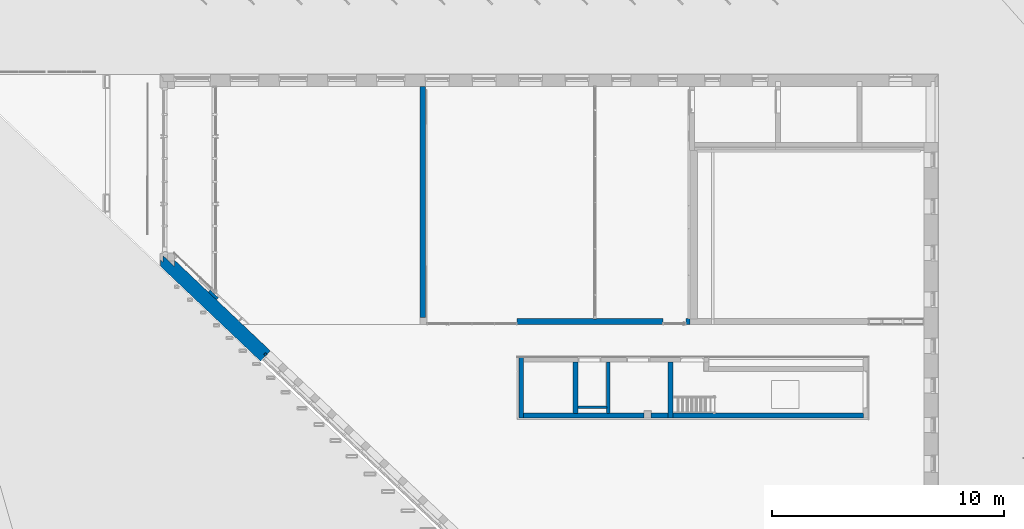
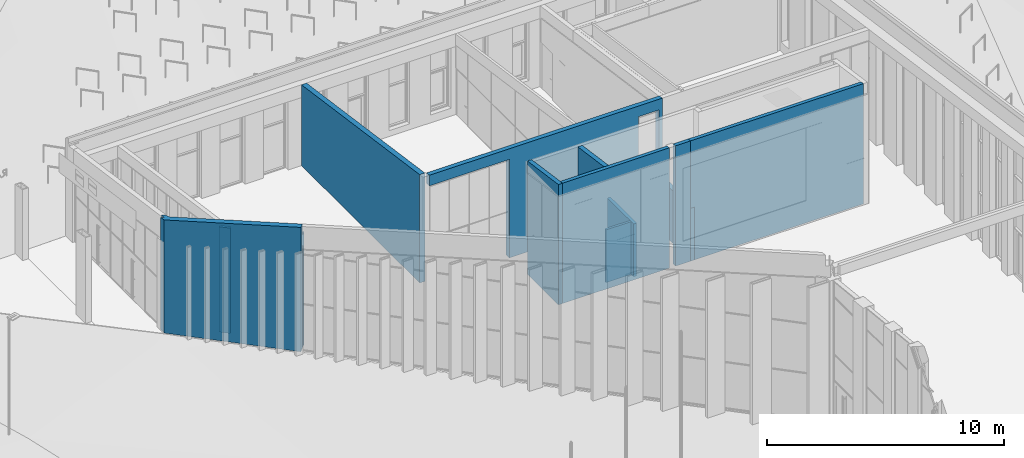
# One storey, part 125 of 246: 12 walls, 2 openings.
"""IFC2X3 building model written with IfcOpenShell, lengths in millimetres."""

from ifc_helpers import new_model, entity, si_unit, converted_unit, derived_unit, money_unit, direction, frame, origin_with_axes, place, context, subcontext, project, spatial, faceted_brep, material, material_list, type_object, element, save


model = new_model("IFC2X3")

# Units and contexts
model_context = context("Model", 3, precision=0.01, world=origin_with_axes(), true_north=direction((0.0, 1.0)))
body_context = subcontext(model_context, "Body", "Model", "MODEL_VIEW")
ifc_project = project(units=[si_unit("LENGTHUNIT", "METRE", prefix="MILLI"), si_unit("AREAUNIT", "SQUARE_METRE"), si_unit("VOLUMEUNIT", "CUBIC_METRE"), converted_unit("PLANEANGLEUNIT", "DEGREE", entity("IfcPlaneAngleMeasure", 0.0174532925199), si_unit("PLANEANGLEUNIT", "RADIAN"), dimensions=[0, 0, 0, 0, 0, 0, 0]), si_unit("SOLIDANGLEUNIT", "STERADIAN"), money_unit("EUR"), converted_unit("TIMEUNIT", "Year", entity("IfcTimeMeasure", 31556926.0), si_unit("TIMEUNIT", "SECOND"), dimensions=[0, 0, 1, 0, 0, 0, 0]), si_unit("MASSUNIT", "GRAM", prefix="KILO"), si_unit("THERMODYNAMICTEMPERATUREUNIT", "DEGREE_CELSIUS"), si_unit("LUMINOUSINTENSITYUNIT", "LUMEN"), si_unit("ENERGYUNIT", "JOULE", prefix="MEGA"), derived_unit("THERMALCONDUCTANCEUNIT", [(si_unit("POWERUNIT", "WATT"), 1), (si_unit("LENGTHUNIT", "METRE"), -1), (si_unit("THERMODYNAMICTEMPERATUREUNIT", "KELVIN"), -1)]), derived_unit("SPECIFICHEATCAPACITYUNIT", [(si_unit("ENERGYUNIT", "JOULE"), 1), (si_unit("MASSUNIT", "GRAM", prefix="KILO"), -1), (si_unit("THERMODYNAMICTEMPERATUREUNIT", "KELVIN"), -1)]), derived_unit("MASSDENSITYUNIT", [(si_unit("MASSUNIT", "GRAM", prefix="KILO"), 1), (si_unit("VOLUMEUNIT", "CUBIC_METRE"), -1)])], contexts=[model_context])

# Site, building, storey
site_placement = place(None, origin_with_axes())
site = spatial("IfcSite", under=ifc_project, at=site_placement, Name="L.Koidula tn 11b", CompositionType="ELEMENT")
building_placement = place(site_placement, origin_with_axes())
building = spatial("IfcBuilding", under=site, at=building_placement, Name="Rakvere Riigigümnaasium", CompositionType="ELEMENT")
storey_placement = place(building_placement, origin_with_axes())
storey = spatial("IfcBuildingStorey", under=building, at=storey_placement, Name="1.korrus 0,00", CompositionType="ELEMENT", Elevation=0.0)

# Walls
ifc_material_1 = material(Name="mineraalvill+karkass")
ifc_material_2 = material(Name="Kipsplaat")
ifc_material_list_1 = material_list([ifc_material_1, ifc_material_2, ifc_material_2])
wall_type_1 = type_object("IfcWallType", Name="SS-06 121", PredefinedType="NOTDEFINED")
wall_1_placement = place(storey_placement, frame((16541.7082725, 62407.0186259, 0.0), z_axis=(0.0, 0.0, 1.0), x_axis=(-0.725934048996, 0.68776431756, 0.0)))
element("IfcWall", 1, at=wall_1_placement, inside=storey, type_object=wall_type_1, material=ifc_material_list_1, Name="Sisesein", context=body_context, shape_type="Brep", body=[
    faceted_brep([(489.293847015, 0.0, 0.0), (489.293847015, -95.0, 0.0), (0.0, -95.0, 0.0), (0.0, 0.0, 0.0), (489.293847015, 0.0, 5417.22620419), (489.293847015, -95.0, 5417.22620419), (0.0, -95.0, 5417.22620419), (0.0, 0.0, 5417.22620419)], [[[0, 1, 2, 3]], [[0, 4, 5, 1]], [[1, 5, 6, 2]], [[3, 2, 6, 7]], [[4, 0, 3, 7]], [[5, 4, 7, 6]]]),
    faceted_brep([(489.293847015, -95.0, 0.0), (489.293847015, -108.0, 0.0), (0.0, -108.0, 0.0), (0.0, -95.0, 0.0), (489.293847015, -95.0, 5417.22620419), (489.293847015, -108.0, 5417.22620419), (0.0, -108.0, 5417.22620419), (0.0, -95.0, 5417.22620419)], [[[0, 1, 2, 3]], [[0, 4, 5, 1]], [[1, 5, 6, 2]], [[3, 2, 6, 7]], [[4, 0, 3, 7]], [[5, 4, 7, 6]]]),
    faceted_brep([(489.293847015, -108.0, 0.0), (489.293847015, -121.0, 0.0), (0.0, -121.0, 0.0), (0.0, -108.0, 0.0), (489.293847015, -108.0, 5417.22620419), (489.293847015, -121.0, 5417.22620419), (0.0, -121.0, 5417.22620419), (0.0, -108.0, 5417.22620419)], [[[0, 1, 2, 3]], [[0, 4, 5, 1]], [[1, 5, 6, 2]], [[3, 2, 6, 7]], [[4, 0, 3, 7]], [[5, 4, 7, 6]]]),
])
ifc_material_3 = material(Name="siseviimistlus-seinad")
ifc_material_4 = material(Name="Betoon element / plaat")
ifc_material_list_2 = material_list([ifc_material_3, ifc_material_4, ifc_material_3])
wall_type_2 = type_object("IfcWallType", Name="SS-01-2 220", PredefinedType="NOTDEFINED")
wall_2_placement = place(storey_placement, frame((31909.9947426, 59940.4546496, 0.0), z_axis=(0.0, 0.0, 1.0), x_axis=(0.0, -1.0, 0.0)))
element("IfcWall", 2, at=wall_2_placement, inside=storey, type_object=wall_type_2, material=ifc_material_list_2, Name="Sisesein", context=body_context, shape_type="Brep", body=[
    faceted_brep([(210.0, 200.0, 5846.03728122), (210.0, 210.0, 5846.03728117), (210.0, 210.0, 3020.0), (210.0, 200.0, 3020.0), (2410.0, 210.0, 6159.14364771), (2410.0, 200.0, 6159.14364777), (2410.0, 210.0, 3020.0), (2410.0, 200.0, 3020.0)], [[[0, 1, 2, 3]], [[4, 1, 0, 5]], [[1, 4, 6, 2]], [[7, 3, 2, 6]], [[5, 0, 3, 7]], [[4, 5, 7, 6]]]),
    faceted_brep([(210.0, 200.0, 0.0), (210.0, 200.0, 2715.0), (210.0, 210.0, 2715.0), (210.0, 210.0, 0.0), (2120.0, 200.0, 0.0), (2120.0, 200.0, 2715.0), (2120.0, 210.0, 2715.0), (2120.0, 210.0, 0.0)], [[[0, 1, 2, 3]], [[4, 5, 1, 0]], [[5, 6, 2, 1]], [[3, 2, 6, 7]], [[0, 3, 7, 4]], [[7, 6, 5, 4]]]),
    faceted_brep([(2211.5, 200.0, 2715.0), (2211.5, 210.0, 2715.0), (2211.5, 210.0, 0.0), (2211.5, 200.0, 0.0), (2410.0, 210.0, 2715.0), (2410.0, 200.0, 2715.0), (2410.0, 210.0, 0.0), (2410.0, 200.0, 0.0)], [[[0, 1, 2, 3]], [[4, 1, 0, 5]], [[1, 4, 6, 2]], [[7, 3, 2, 6]], [[5, 0, 3, 7]], [[4, 5, 7, 6]]]),
    faceted_brep([(200.0, 0.0, 5844.6140716), (200.0, 200.0, 5844.61407047), (200.0, 200.0, 0.0), (200.0, 0.0, 0.0), (2420.0, 200.0, 6160.56685853), (2420.0, 0.0, 6160.56685966), (2420.0, 200.0, 0.0), (2420.0, 0.0, 0.0)], [[[0, 1, 2, 3]], [[4, 1, 0, 5]], [[1, 4, 6, 2]], [[3, 2, 6, 7]], [[5, 0, 3, 7]], [[4, 5, 7, 6]]]),
    faceted_brep([(210.0, -10.0, 5846.03728241), (210.0, 0.0, 5846.03728235), (210.0, 0.0, 0.0), (210.0, -10.0, 0.0), (2410.0, 0.0, 6159.1436489), (2410.0, -10.0, 6159.14364896), (2410.0, 0.0, 0.0), (2410.0, -10.0, 0.0)], [[[0, 1, 2, 3]], [[4, 1, 0, 5]], [[1, 4, 6, 2]], [[6, 7, 3, 2]], [[5, 0, 3, 7]], [[4, 5, 7, 6]]]),
])
wall_3_placement = place(storey_placement, frame((35989.9999713, 59940.4546496, 0.0), z_axis=(0.0, 0.0, 1.0), x_axis=(0.0, -1.0, 0.0)))
element("IfcWall", 3, at=wall_3_placement, inside=storey, type_object=wall_type_2, material=ifc_material_list_2, Name="Sisesein", context=body_context, shape_type="Brep", body=[
    faceted_brep([(2419.99999553, 200.0, 2715.0), (2419.99999553, 210.0, 2715.0), (210.0, 210.0, 2715.0), (210.0, 200.0, 2715.0), (2420.0, 210.0, 0.0), (2420.0, 200.0, 0.0), (210.0, 210.0, 0.0), (210.0, 200.0, 0.0)], [[[0, 1, 2, 3]], [[4, 1, 0, 5]], [[1, 4, 6, 2]], [[2, 6, 7, 3]], [[5, 0, 3, 7]], [[4, 5, 7, 6]]]),
    faceted_brep([(2620.0, 200.0, 0.0), (2620.0, 0.0, 0.0), (200.0, 0.0, 0.0), (200.0, 200.0, 0.0), (2620.0, 200.0, 2715.0), (2620.0, 0.0, 2715.0), (200.0, 0.0, 2715.0), (200.0, 200.0, 2715.0)], [[[0, 1, 2, 3]], [[1, 0, 4, 5]], [[1, 5, 6, 2]], [[7, 3, 2, 6]], [[4, 0, 3, 7]], [[5, 4, 7, 6]]]),
    faceted_brep([(2420.0, -10.0, 0.0), (210.0, -10.0, 0.0), (210.0, 0.0, 0.0), (2420.0, 0.0, 0.0), (2420.0, -10.0, 2715.0), (210.0, -10.0, 2715.0), (210.0, 0.0, 2715.0), (2420.0, 0.0, 2715.0)], [[[0, 1, 2, 3]], [[4, 5, 1, 0]], [[2, 1, 5, 6]], [[3, 2, 6, 7]], [[3, 7, 4, 0]], [[7, 6, 5, 4]]]),
])
ifc_material_list_3 = material_list([ifc_material_3, ifc_material_4])
wall_type_3 = type_object("IfcWallType", Name="SS-01-1 210", PredefinedType="NOTDEFINED")
wall_4_placement = place(storey_placement, frame((29559.9900192, 57320.4546496, 0.0), z_axis=(0.0, 0.0, 1.0), x_axis=(1.0, 0.0, 0.0)))
element("IfcWall", 4, at=wall_4_placement, inside=storey, type_object=wall_type_3, material=ifc_material_list_3, Name="Sisesein", context=body_context, shape_type="Brep", body=[
    faceted_brep([(5700.00998084, 210.000018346, 6159.14362742), (6430.00995215, 210.000022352, 6159.14362273), (6430.00995215, 210.000022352, 2715.0), (6420.00995215, 210.000022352, 2715.0), (6420.00995215, 210.0, 0.0), (5700.00998084, 210.0, 0.0), (6430.00995215, 200.00000447, 6160.56683603), (5700.00998084, 200.00000367, 6160.56684027), (6430.00995215, 200.00000447, 2715.0), (6420.00995215, 200.00000447, 2715.0), (6420.00995215, 200.0, 0.0), (5700.00998084, 200.0, 0.0)], [[[0, 1, 2, 3, 4, 5]], [[6, 1, 0, 7]], [[1, 6, 8, 2]], [[8, 9, 3, 2]], [[9, 10, 4, 3]], [[10, 11, 5, 4]], [[7, 0, 5, 11]], [[6, 7, 11, 10, 9, 8]]]),
    faceted_brep([(2550.00472341, 210.000008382, 6159.14364658), (5400.00998084, 210.000017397, 6159.14362919), (5400.00998084, 210.0, 0.0), (3910.00472341, 210.0, 0.0), (3910.00472341, 210.000022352, 2715.0), (3790.00472341, 210.000022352, 2715.0), (3790.00472341, 210.0, 0.0), (2550.00472341, 210.0, 0.0), (5400.00998084, 200.00000348, 6160.56684193), (2550.00472341, 200.000001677, 6160.56685829), (5400.00998084, 200.0, 0.0), (3910.00472341, 200.0, 0.0), (3910.00472341, 200.00000447, 2715.0), (3790.00472341, 200.00000447, 2715.0), (3790.00472341, 200.0, 0.0), (2550.00472341, 200.0, 0.0)], [[[0, 1, 2, 3, 4, 5, 6, 7]], [[8, 1, 0, 9]], [[1, 8, 10, 2]], [[3, 2, 10, 11]], [[11, 12, 4, 3]], [[12, 13, 5, 4]], [[13, 14, 6, 5]], [[15, 7, 6, 14]], [[9, 0, 7, 15]], [[8, 9, 15, 14, 13, 12, 11, 10]]]),
    faceted_brep([(210.0, 210.000000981, 6159.14366085), (2350.00472341, 210.00000775, 6159.1436478), (2350.00472341, 210.0, 0.0), (210.0, 210.0, 0.0), (2350.00472341, 200.00000155, 6160.56685944), (210.0, 200.000000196, 6160.56687172), (2350.00472341, 200.0, 0.0), (210.0, 200.0, 0.0)], [[[0, 1, 2, 3]], [[4, 1, 0, 5]], [[1, 4, 6, 2]], [[2, 6, 7, 3]], [[5, 0, 3, 7]], [[4, 5, 7, 6]]]),
    faceted_brep([(5700.00998084, 200.00000367, 6160.56684027), (6430.00995215, 200.000004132, 6160.56683608), (6430.00995215, 200.0, 0.0), (5700.00998084, 200.0, 0.0), (6430.00995215, 0.0, 6189.0310518), (5700.00998084, 0.0, 6189.03105593), (6430.00995215, 0.0, 2715.0), (6430.00995215, 0.0, 0.0), (5700.00998084, 0.0, 0.0)], [[[0, 1, 2, 3]], [[4, 1, 0, 5]], [[1, 4, 6, 7, 2]], [[7, 8, 3, 2]], [[5, 0, 3, 8]], [[4, 5, 8, 7, 6]]]),
    faceted_brep([(200.0, 200.00000019, 6160.56687178), (5400.00998084, 200.00000348, 6160.56684193), (5400.00998084, 200.0, 0.0), (200.0, 200.0, 0.0), (5400.00998084, 0.0, 6189.03105757), (200.0, 0.0, 6189.03108695), (5400.00998084, 0.0, 0.0), (200.0, 0.0, 0.0)], [[[0, 1, 2, 3]], [[4, 1, 0, 5]], [[1, 4, 6, 2]], [[3, 2, 6, 7]], [[5, 0, 3, 7]], [[4, 5, 7, 6]]]),
])
wall_5_placement = place(storey_placement, frame((35989.9999713, 57320.4546496, 0.0), z_axis=(0.0, 0.0, 1.0), x_axis=(1.0, 0.0, 0.0)))
element("IfcWall", 5, at=wall_5_placement, inside=storey, type_object=wall_type_3, material=ifc_material_list_3, Name="Sisesein", context=body_context, shape_type="Brep", body=[
    faceted_brep([(0.0, 210.000022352, 6159.14362273), (8400.0000198, 210.000000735, 6159.14357834), (8400.0000198, 210.0, 0.0), (210.0, 210.0, 0.0), (210.0, 210.000022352, 2715.0), (0.0, 210.000022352, 2715.0), (8400.0000198, 200.000000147, 6160.56678918), (0.0, 200.00000447, 6160.56683603), (8400.0000198, 200.0, 0.0), (210.0, 200.0, 0.0), (210.0, 200.00000447, 2715.0), (0.0, 200.00000447, 2715.0)], [[[0, 1, 2, 3, 4, 5]], [[6, 1, 0, 7]], [[1, 6, 8, 2]], [[8, 9, 3, 2]], [[10, 4, 3, 9]], [[11, 5, 4, 10]], [[7, 0, 5, 11]], [[6, 7, 11, 10, 9, 8]]]),
    faceted_brep([(0.0, 200.00000447, 6160.56683603), (8410.0000198, 200.000000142, 6160.56678913), (8410.0000198, 200.0, 0.0), (200.0, 200.0, 0.0), (200.0, 200.00000447, 2715.0), (0.0, 200.00000447, 2715.0), (8410.0000198, 0.0, 6189.03100429), (0.0, 0.0, 6189.0310518), (8410.0000198, 0.0, 0.0), (200.0, 0.0, 0.0), (200.0, 0.0, 2715.0), (0.0, 0.0, 2715.0)], [[[0, 1, 2, 3, 4, 5]], [[6, 1, 0, 7]], [[1, 6, 8, 2]], [[8, 9, 3, 2]], [[10, 4, 3, 9]], [[11, 5, 4, 10]], [[7, 0, 5, 11]], [[6, 7, 11, 10, 9, 8]]]),
])
wall_6_placement = place(storey_placement, frame((29559.9900192, 59940.4546496, 0.0), z_axis=(0.0, 0.0, 1.0), x_axis=(0.0, -1.0, 0.0)))
element("IfcWall", 6, at=wall_6_placement, inside=storey, type_object=wall_type_3, material=ifc_material_list_3, Name="Sisesein", context=body_context, shape_type="Brep", body=[
    faceted_brep([(200.0, 200.0, 5844.61408375), (200.0, 210.0, 5844.61408369), (200.0, 210.0, 0.0), (200.0, 200.0, 0.0), (2420.0, 210.0, 6160.56687175), (2420.0, 200.0, 6160.56687181), (2420.0, 210.0, 0.0), (2420.0, 200.0, 0.0)], [[[0, 1, 2, 3]], [[4, 1, 0, 5]], [[1, 4, 6, 2]], [[6, 7, 3, 2]], [[5, 0, 3, 7]], [[4, 5, 7, 6]]]),
    faceted_brep([(0.0, 0.0, 5816.14986973), (0.0, 200.0, 5816.1498686), (0.0, 200.0, 0.0), (0.0, 0.0, 0.0), (2620.0, 200.0, 6189.03108695), (2620.0, 0.0, 6189.03108808), (2620.0, 200.0, 0.0), (2620.0, 0.0, 0.0)], [[[0, 1, 2, 3]], [[4, 1, 0, 5]], [[1, 4, 6, 2]], [[6, 7, 3, 2]], [[5, 0, 3, 7]], [[4, 5, 7, 6]]]),
])
ifc_material_5 = material(Name="Keraamiline plaat")
ifc_material_6 = material(Name="Silikaat plokk")
ifc_material_list_4 = material_list([ifc_material_5, ifc_material_6, ifc_material_5])
wall_type_4 = type_object("IfcWallType", Name="SS-05-1 150", PredefinedType="NOTDEFINED")
wall_7_placement = place(storey_placement, frame((33469.9947426, 59940.4546496, 0.0), z_axis=(0.0, 0.0, 1.0), x_axis=(0.0, -1.0, 0.0)))
element("IfcWall", 7, at=wall_7_placement, inside=storey, type_object=wall_type_4, material=ifc_material_list_4, Name="Sisesein", context=body_context, shape_type="Brep", body=[
    faceted_brep([(2410.0, 15.0, 2715.0), (210.0, 15.0, 2715.0), (210.0, 0.0, 2715.0), (2410.0, 0.0, 2715.0), (2410.0, 15.0, 0.0), (210.0, 15.0, 0.0), (210.0, 0.0, 0.0), (2410.0, 0.0, 0.0)], [[[0, 1, 2, 3]], [[4, 5, 1, 0]], [[2, 1, 5, 6]], [[3, 2, 6, 7]], [[3, 7, 4, 0]], [[7, 6, 5, 4]]]),
    faceted_brep([(2420.0, 0.0, 2715.0), (200.0, 0.0, 2715.0), (200.0, -120.0, 2715.0), (2420.0, -120.0, 2715.0), (2420.0, 0.0, 0.0), (200.0, 0.0, 0.0), (200.0, -120.0, 0.0), (2420.0, -120.0, 0.0)], [[[0, 1, 2, 3]], [[4, 5, 1, 0]], [[2, 1, 5, 6]], [[3, 2, 6, 7]], [[3, 7, 4, 0]], [[7, 6, 5, 4]]]),
    faceted_brep([(2410.0, -120.0, 2715.0), (2211.5, -120.0, 2715.0), (2211.5, -135.0, 2715.0), (2410.0, -135.0, 2715.0), (2410.0, -120.0, 0.0), (2211.5, -120.0, 0.0), (2211.5, -135.0, 0.0), (2410.0, -135.0, 0.0)], [[[0, 1, 2, 3]], [[4, 5, 1, 0]], [[2, 1, 5, 6]], [[3, 2, 6, 7]], [[3, 7, 4, 0]], [[7, 6, 5, 4]]]),
    faceted_brep([(2120.0, -120.0, 2715.0), (210.0, -120.0, 2715.0), (210.0, -135.0, 2715.0), (2120.0, -135.0, 2715.0), (2120.0, -120.0, 0.0), (210.0, -120.0, 0.0), (210.0, -135.0, 0.0), (2120.0, -135.0, 0.0)], [[[0, 1, 2, 3]], [[4, 5, 1, 0]], [[2, 1, 5, 6]], [[3, 2, 6, 7]], [[3, 7, 4, 0]], [[7, 6, 5, 4]]]),
])

# Wall, openings
ifc_material_7 = material(Name="Krohv")
ifc_material_8 = material(Name="Betoon")
ifc_material_list_5 = material_list([ifc_material_7, ifc_material_8])
wall_type_5 = type_object("IfcWallType", Name="SS-03-1 260", PredefinedType="NOTDEFINED")
wall_8_placement = place(storey_placement, frame((25299.9999003, 61340.4546496, 0.0), z_axis=(0.0, 0.0, 1.0), x_axis=(1.0, 0.0, 0.0)))
wall_8 = element("IfcWall", 8, at=wall_8_placement, inside=storey, type_object=wall_type_5, material=ifc_material_list_5, Name="Sisesein", context=body_context, shape_type="Brep", body=[
    faceted_brep([(7605.77136943, 260.0, 5579.89686516), (11609.9972454, 260.0, 5579.89684254), (11635.1426589, 260.0, 5579.8968424), (11635.1426589, 260.0, 0.0), (11465.0252022, 260.0, 0.0), (11465.0252022, 260.0, 5070.0), (10465.0252022, 260.0, 5070.0), (10465.0252022, 260.0, 0.0), (7605.77136943, 260.0, 0.0), (7604.10664399, 250.0, 5581.32007593), (11609.9972454, 250.0, 5581.3200533), (11635.1426589, 250.0, 5581.32005315), (11635.1426589, 250.0, 0.0), (11465.0252022, 250.0, 0.0), (11465.0252022, 250.0, 5070.0), (10465.0252022, 250.0, 5070.0), (10465.0252022, 250.0, 0.0), (7604.10664399, 250.0, 0.0)], [[[0, 1, 2, 3, 4, 5, 6, 7, 8]], [[1, 0, 9, 10, 11, 2]], [[3, 2, 11, 12]], [[4, 3, 12, 13]], [[4, 13, 14, 5]], [[5, 14, 15, 6]], [[6, 15, 16, 7]], [[16, 17, 8, 7]], [[9, 0, 8, 17]], [[10, 9, 17, 16, 15, 14, 13, 12, 11]]]),
    faceted_brep([(300.0, 260.0, 5579.89690644), (7486.65435094, 260.0, 5579.89686584), (7486.65435094, 260.0, 0.0), (4189.99007651, 260.0, 0.0), (4189.99007651, 260.0, 5070.0), (300.0, 260.0, 5070.0), (7484.98962551, 250.0, 5581.3200766), (300.0, 250.0, 5581.3201172), (7484.98962551, 250.0, 0.0), (4189.99007651, 250.0, 0.0), (4189.99007651, 250.0, 5070.0), (300.0, 250.0, 5070.0)], [[[0, 1, 2, 3, 4, 5]], [[6, 1, 0, 7]], [[1, 6, 8, 2]], [[2, 8, 9, 3]], [[9, 10, 4, 3]], [[10, 11, 5, 4]], [[7, 0, 5, 11]], [[6, 7, 11, 10, 9, 8]]]),
    faceted_brep([(300.0, 250.0, 5581.3201172), (11609.9972454, 250.0, 5581.3200533), (11635.1426589, 250.0, 5581.32005315), (11635.1426589, 250.0, 0.0), (11465.0252022, 250.0, 0.0), (11465.0252022, 250.0, 5070.0), (10465.0252022, 250.0, 5070.0), (10465.0252022, 250.0, 0.0), (4189.99007651, 250.0, 0.0), (4189.99007651, 250.0, 5070.0), (300.0, 250.0, 5070.0), (300.0, 249.987891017, 5581.32184056), (300.0, 0.0, 5616.90038613), (11635.1426589, 0.0, 5616.90032214), (11635.1426589, 0.0, 0.0), (11465.0252022, 0.0, 0.0), (11465.0252022, 0.0, 5070.0), (10465.0252022, 0.0, 5070.0), (10465.0252022, 0.0, 0.0), (4189.99007651, 0.0, 0.0), (4189.99007651, 0.0, 5070.0), (300.0, 0.0, 5070.0)], [[[0, 1, 2, 3, 4, 5, 6, 7, 8, 9, 10]], [[11, 12, 13, 2, 1, 0]], [[3, 2, 13, 14]], [[4, 3, 14, 15]], [[4, 15, 16, 5]], [[5, 16, 17, 6]], [[6, 17, 18, 7]], [[19, 8, 7, 18]], [[9, 8, 19, 20]], [[10, 9, 20, 21]], [[11, 0, 10, 21, 12]], [[15, 14, 13, 12, 21, 20, 19, 18, 17, 16]]]),
])
opening_1_placement = place(wall_8_placement, frame((10965.0252022, 0.0, 0.0), z_axis=(0.0, 0.0, 1.0), x_axis=(1.0, 0.0, 0.0)))
element("IfcOpeningElement", 9, at=opening_1_placement, cuts=wall_8, Name="ava", context=body_context, shape_type="Brep", body=[
    faceted_brep([(500.0, -260.0, 5070.0), (500.0, -260.0, 0.0), (500.0, 0.0, 0.0), (500.0, 0.0, 5070.0), (-500.0, -260.0, 5070.0), (-500.0, -260.0, 0.0), (-500.0, 0.0, 0.0), (-500.0, 0.0, 5070.0)], [[[0, 1, 2, 3]], [[0, 4, 5, 1]], [[1, 5, 6, 2]], [[3, 2, 6, 7]], [[4, 0, 3, 7]], [[5, 4, 7, 6]]]),
    faceted_brep([(500.0, 260.0, 0.0), (500.0, 260.0, 5070.0), (500.0, 0.0, 5070.0), (500.0, 0.0, 0.0), (-500.0, 260.0, 0.0), (-500.0, 260.0, 5070.0), (-500.0, 0.0, 5070.0), (-500.0, 0.0, 0.0)], [[[0, 1, 2, 3]], [[0, 4, 5, 1]], [[1, 5, 6, 2]], [[3, 2, 6, 7]], [[4, 0, 3, 7]], [[5, 4, 7, 6]]]),
])
opening_2_placement = place(wall_8_placement, frame((2244.99503825, 0.0, 0.0), z_axis=(0.0, 0.0, 1.0), x_axis=(1.0, 0.0, 0.0)))
element("IfcOpeningElement", 10, at=opening_2_placement, cuts=wall_8, Name="ava", context=body_context, shape_type="Brep", body=[
    faceted_brep([(-1944.99503825, -520.0, 0.0), (-1944.99503825, -520.0, 5070.0), (-1944.99503825, 260.0, 5070.0), (-1944.99503825, 260.0, 0.0), (1944.99503825, -520.0, 0.0), (1944.99503825, -520.0, 5070.0), (1944.99503825, 260.0, 5070.0), (1944.99503825, 260.0, 0.0)], [[[0, 1, 2, 3]], [[0, 4, 5, 1]], [[1, 5, 6, 2]], [[3, 2, 6, 7]], [[4, 0, 3, 7]], [[5, 4, 7, 6]]]),
])

# Walls
ifc_material_9 = material(Name="Betoon-element")
ifc_material_10 = material(Name="FF-PIR soojustus")
ifc_material_11 = material(Name="Tuuletõke (RKL Facade)")
ifc_material_12 = material(Name="Salto-roovitus")
ifc_material_13 = material(Name="Puit-fassaad")
ifc_material_list_6 = material_list([ifc_material_9, ifc_material_10, ifc_material_10, ifc_material_11, ifc_material_12, ifc_material_12, ifc_material_13])
wall_type_6 = type_object("IfcWallType", Name="VS-01-2 614", PredefinedType="NOTDEFINED")
wall_9_placement = place(storey_placement, frame((14730.0344055, 64123.4343836, 0.0), z_axis=(0.0, 0.0, 1.0), x_axis=(0.725934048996, -0.68776431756, 0.0)))
element("IfcWall", 11, at=wall_9_placement, inside=storey, type_object=wall_type_6, material=ifc_material_list_6, Name="Välissein", context=body_context, shape_type="Brep", body=[
    faceted_brep([(5689.20717306, 0.0, 0.0), (0.0, 0.0, 0.0), (1.50308210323e-07, 1.42406975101e-07, 5220.82377814), (5689.20717306, 0.0, 5777.70245445), (189.483967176, -200.0, 0.0), (5689.20717306, -200.0, 0.0), (189.483967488, -200.000000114, 5260.03424803), (5689.20717306, -200.0, 5798.36559817)], [[[0, 1, 2, 3]], [[4, 1, 0, 5]], [[1, 4, 6, 2]], [[2, 6, 7, 3]], [[5, 0, 3, 7]], [[4, 5, 7, 6]]]),
    faceted_brep([(5689.2062214, -299.999999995, 0.0), (5689.2062214, -299.999999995, 5239.65571022), (5689.20717306, -200.0, 5239.65571022), (5689.20717306, -200.0, 5798.36559817), (5689.20717306, -312.311480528, 5809.9691395), (5689.20717307, -312.311479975, 6367.39395961), (5689.20717306, -400.0, 6376.45356207), (5689.20717306, -400.0, 0.0), (5589.20622141, -299.999048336, 0.0), (5589.20622141, -299.999048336, 5239.65571022), (5589.20717307, -199.999048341, 5239.65571022), (5589.20717307, -199.999048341, 0.0), (-471.733123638, -200.0, 0.0), (-471.73312352, -200.000000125, 5752.73692201), (-223.776724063, -199.999999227, 5777.0077258), (-223.776725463, -200.0, 5219.58290557), (-116.512394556, -313.21731594, 5241.77942633), (-116.51239296, -313.217315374, 5799.2042466), (-282.249156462, -400.0, 5791.94739184), (-282.249156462, -400.0, 0.0)], [[[0, 1, 2, 3, 4, 5, 6, 7]], [[1, 0, 8, 9]], [[10, 2, 1, 9]], [[10, 11, 12, 13, 14, 15, 3, 2]], [[15, 16, 4, 3]], [[16, 17, 5, 4]], [[18, 6, 5, 17, 14, 13]], [[7, 6, 18, 19]], [[8, 0, 7, 19, 12, 11]], [[11, 10, 9, 8]], [[19, 18, 13, 12]], [[15, 14, 17, 16]]]),
    faceted_brep([(-439.28821553, -400.0, 0.0), (-439.28821553, -400.0, 5776.57588212), (5689.20717306, -400.0, 6376.45356207), (5689.20717306, -400.0, 0.0), (-363.49462866, -480.0, 0.0), (-363.494626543, -480.000002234, 5792.2600705), (5689.20717306, -480.0, 6384.71881956), (5689.20717306, -480.0, 0.0)], [[[0, 1, 2, 3]], [[4, 5, 1, 0]], [[5, 6, 2, 1]], [[3, 2, 6, 7]], [[0, 3, 7, 4]], [[7, 6, 5, 4]]]),
    faceted_brep([(-363.494626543, -480.000002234, 5792.2600705), (5689.20717306, -480.0, 6384.71881956), (5689.20717306, -480.0, 0.0), (-363.49462866, -480.0, 0.0), (5689.20717306, -530.0, 6389.88460549), (-316.123634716, -530.000002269, 5802.06268797), (5689.20717306, -530.0, 0.0), (-316.123636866, -530.0, 0.0)], [[[0, 1, 2, 3]], [[4, 1, 0, 5]], [[1, 4, 6, 2]], [[2, 6, 7, 3]], [[5, 0, 3, 7]], [[4, 5, 7, 6]]]),
    faceted_brep([(-316.123634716, -530.000002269, 5802.06268797), (5689.20717306, -530.0, 6389.88460549), (5689.20717306, -530.0, 0.0), (-316.123636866, -530.0, 0.0), (5689.20717306, -562.0, 6393.19070849), (-285.806202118, -562.0, 5808.3363627), (5689.20717306, -562.0, 0.0), (-285.806202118, -562.0, 0.0)], [[[0, 1, 2, 3]], [[4, 1, 0, 5]], [[1, 4, 6, 2]], [[2, 6, 7, 3]], [[5, 0, 3, 7]], [[4, 5, 7, 6]]]),
    faceted_brep([(-285.806202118, -562.0, 5808.3363627), (5689.20717306, -562.0, 6393.19070849), (5689.20717306, -562.0, 0.0), (-285.806202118, -562.0, 0.0), (5689.20717306, -594.0, 6396.49681149), (-255.488765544, -594.000001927, 5814.61003825), (5689.20717306, -594.0, 0.0), (-255.488767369, -594.0, 0.0)], [[[0, 1, 2, 3]], [[4, 1, 0, 5]], [[1, 4, 6, 2]], [[2, 6, 7, 3]], [[5, 0, 3, 7]], [[4, 5, 7, 6]]]),
    faceted_brep([(-255.488765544, -594.000001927, 5814.61003825), (5689.20717306, -594.0, 6396.49681149), (5689.20717306, -594.0, 0.0), (-255.488767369, -594.0, 0.0), (5689.20717306, -614.0, 6398.56312586), (-236.540370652, -614.0, 5818.53108486), (5689.20717306, -614.0, 0.0), (-236.540370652, -614.0, 0.0)], [[[0, 1, 2, 3]], [[4, 1, 0, 5]], [[1, 4, 6, 2]], [[2, 6, 7, 3]], [[5, 0, 3, 7]], [[4, 5, 7, 6]]]),
])
wall_type_7 = type_object("IfcWallType", Name="SS-03 250", PredefinedType="NOTDEFINED")
wall_10_placement = place(storey_placement, frame((25299.9999177, 71600.4516838, 0.0), z_axis=(0.0, 0.0, 1.0), x_axis=(-1.69924128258e-09, -1.0, 0.0)))
element("IfcWall", 12, at=wall_10_placement, inside=storey, type_object=wall_type_7, material=ifc_material_8, Name="Sisesein", context=body_context, shape_type="Brep", body=[
    faceted_brep([(0.0, -2.22387726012e-05, 4156.6865732), (-4.24805080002e-07, 250.0, 4156.68657179), (-4.24805080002e-07, 250.0, 3573.97480983), (-4.24805080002e-07, 250.0, 0.0), (0.0, 0.0, 0.0), (0.0, 0.0, 3573.97480983), (9959.99703378, 250.000016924, 5574.2040637), (9959.9970342, -5.31433386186e-06, 5574.20406511), (9959.99703378, 250.000016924, 0.0), (9959.9970342, -5.09771780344e-07, 0.0)], [[[0, 1, 2, 3, 4, 5]], [[6, 1, 0, 7]], [[1, 6, 8, 3, 2]], [[9, 4, 3, 8]], [[7, 0, 5, 4, 9]], [[6, 7, 9, 8]]]),
])
ifc_material_list_7 = material_list([ifc_material_1, ifc_material_2, ifc_material_2, ifc_material_5])
wall_type_8 = type_object("IfcWallType", Name="SS-09 107", PredefinedType="NOTDEFINED")
wall_11_placement = place(storey_placement, frame((33469.9947426, 57728.9546496, 0.0), z_axis=(0.0, 0.0, 1.0), x_axis=(-1.0, 0.0, 0.0)))
element("IfcWall", 13, at=wall_11_placement, inside=storey, type_object=wall_type_8, material=ifc_material_list_7, Name="Sisesein", context=body_context, shape_type="Brep", body=[
    faceted_brep([(1360.0, -66.0, 0.0), (120.0, -66.0, 0.0), (120.0, 0.0, 0.0), (1360.0, 0.0, 0.0), (1360.0, -66.0, 2714.99998986), (120.0, -66.0, 2714.99998986), (120.0, 0.0, 2714.99998986), (1360.0, 0.0, 2714.99998986)], [[[0, 1, 2, 3]], [[4, 5, 1, 0]], [[2, 1, 5, 6]], [[3, 2, 6, 7]], [[3, 7, 4, 0]], [[7, 6, 5, 4]]]),
    faceted_brep([(1360.0, -78.5, 0.0), (120.0, -78.5, 0.0), (120.0, -66.0, 0.0), (1360.0, -66.0, 0.0), (1360.0, -78.5, 2714.99998986), (120.0, -78.5, 2714.99998986), (120.0, -66.0, 2714.99998986), (1360.0, -66.0, 2714.99998986)], [[[0, 1, 2, 3]], [[4, 5, 1, 0]], [[2, 1, 5, 6]], [[3, 2, 6, 7]], [[3, 7, 4, 0]], [[7, 6, 5, 4]]]),
    faceted_brep([(1360.0, -91.5, 0.0), (120.0, -91.5, 0.0), (120.0, -78.5, 0.0), (1360.0, -78.5, 0.0), (1360.0, -91.5, 2714.99998986), (120.0, -91.5, 2714.99998986), (120.0, -78.5, 2714.99998986), (1360.0, -78.5, 2714.99998986)], [[[0, 1, 2, 3]], [[4, 5, 1, 0]], [[2, 1, 5, 6]], [[3, 2, 6, 7]], [[3, 7, 4, 0]], [[7, 6, 5, 4]]]),
    faceted_brep([(1350.0, -106.5, 0.0), (135.0, -106.5, 0.0), (135.0, -91.5, 0.0), (1350.0, -91.5, 0.0), (1350.0, -106.5, 2714.99998986), (135.0, -106.5, 2714.99998986), (135.0, -91.5, 2714.99998986), (1350.0, -91.5, 2714.99998986)], [[[0, 1, 2, 3]], [[4, 5, 1, 0]], [[2, 1, 5, 6]], [[3, 2, 6, 7]], [[3, 7, 4, 0]], [[7, 6, 5, 4]]]),
])
wall_type_9 = type_object("IfcWallType", Name="Betoon-element 100", PredefinedType="NOTDEFINED")
wall_12_placement = place(storey_placement, frame((18722.4707407, 60065.413885, 0.0), z_axis=(0.0, 0.0, 1.0), x_axis=(-0.687771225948, -0.725927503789, 0.0)))
element("IfcWall", 14, at=wall_12_placement, inside=storey, type_object=wall_type_9, material=ifc_material_9, Name="Välisseina osa", context=body_context, shape_type="Brep", body=[
    faceted_brep([(0.0, 0.0, 0.0), (100.0, 0.0, 0.0), (100.0, -100.0, 0.0), (0.0, -100.0, 0.0), (0.0, 0.0, 5239.65571022), (100.0, 0.0, 5239.65571022), (100.0, -100.0, 5239.65571022), (0.0, -100.0, 5239.65571022)], [[[0, 1, 2, 3]], [[4, 5, 1, 0]], [[2, 1, 5, 6]], [[3, 2, 6, 7]], [[4, 0, 3, 7]], [[7, 6, 5, 4]]]),
])

save(model, "model.ifc")
